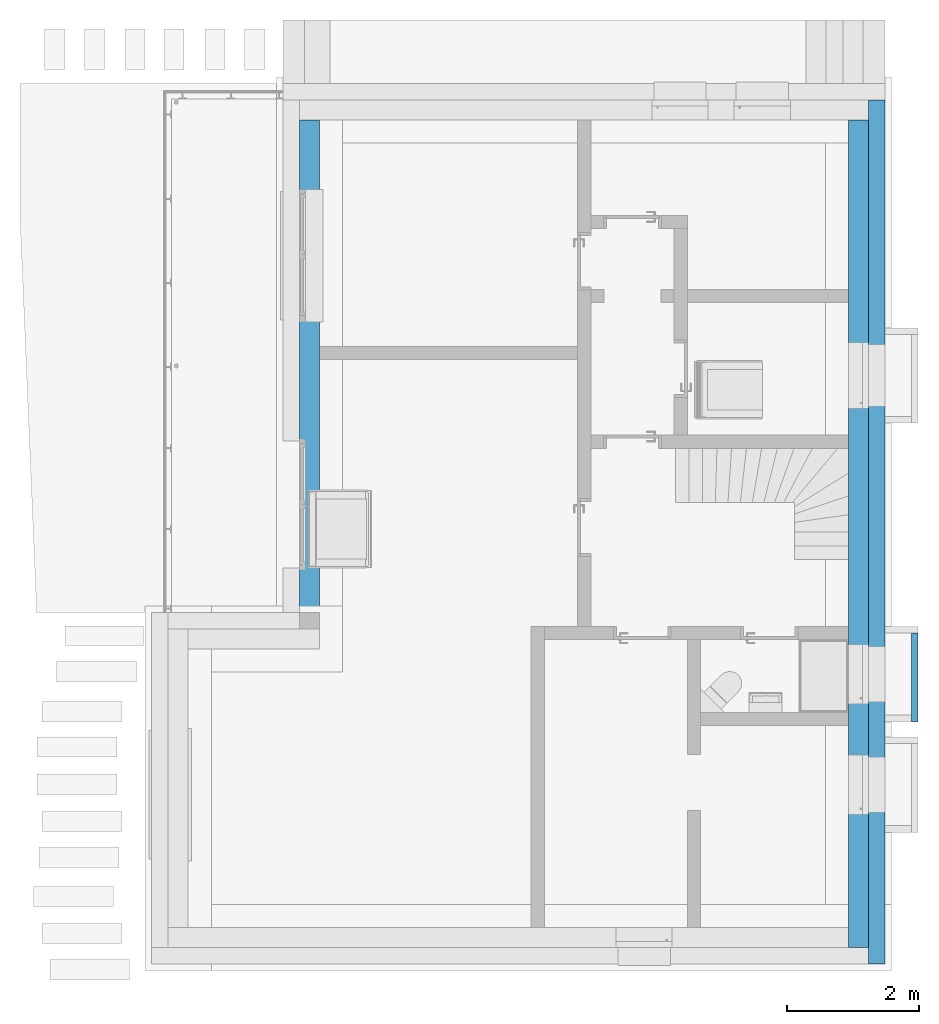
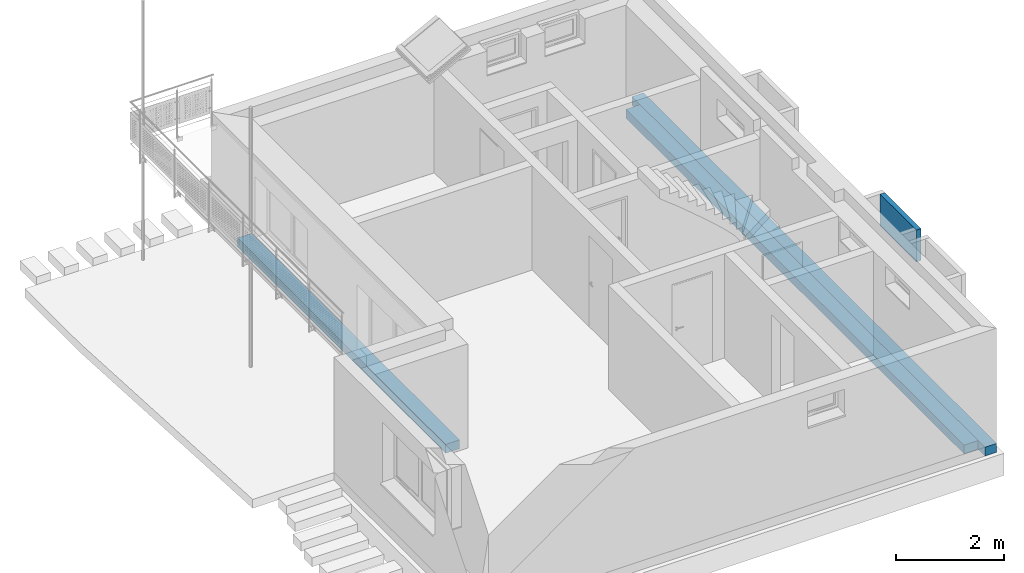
# One storey, part 4 of 22: 4 walls.
"""IFC2X3 building model written with IfcOpenShell, lengths in metres."""

from ifc_helpers import new_model, entity, si_unit, converted_unit, derived_unit, direction, frame, frame_2d, origin, place, context, subcontext, project, spatial, rectangle, extrude, material, layer, layer_set, layer_usage, type_object, element, save


model = new_model("IFC2X3")

# Units and contexts
model_context = context("Model", 3, precision=1e-05, world=origin(), true_north=direction((6.123233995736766e-17, 1.0)))
body_context = subcontext(model_context, "Body", "Model", "MODEL_VIEW")
ifc_project = project(units=[si_unit("LENGTHUNIT", "METRE"), si_unit("AREAUNIT", "SQUARE_METRE"), si_unit("VOLUMEUNIT", "CUBIC_METRE"), si_unit("POWERUNIT", "WATT"), derived_unit("USERDEFINED", [(si_unit("MASSUNIT", "GRAM", prefix="KILO"), 1), (si_unit("TIMEUNIT", "SECOND"), -3)]), derived_unit("THERMALRESISTANCEUNIT", [(si_unit("MASSUNIT", "GRAM", prefix="KILO"), -1), (si_unit("TIMEUNIT", "SECOND"), 3), (si_unit("THERMODYNAMICTEMPERATUREUNIT", "KELVIN"), 1)]), derived_unit("USERDEFINED", [(si_unit("MASSUNIT", "GRAM", prefix="KILO"), 1), (si_unit("TIMEUNIT", "SECOND"), -2), (si_unit("THERMODYNAMICTEMPERATUREUNIT", "KELVIN"), -1)]), derived_unit("THERMALTRANSMITTANCEUNIT", [(si_unit("MASSUNIT", "GRAM", prefix="KILO"), 1), (si_unit("TIMEUNIT", "SECOND"), -3), (si_unit("THERMODYNAMICTEMPERATUREUNIT", "KELVIN"), -1)]), converted_unit("PLANEANGLEUNIT", "DEGREE", entity("IfcPlaneAngleMeasure", 0.017453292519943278), si_unit("PLANEANGLEUNIT", "RADIAN"), dimensions=[0, 0, 0, 0, 0, 0, 0]), derived_unit("MOMENTOFINERTIAUNIT", [(si_unit("LENGTHUNIT", "METRE"), 4)])], contexts=[model_context])

# Site, building, storey
site_placement = place(None, origin())
site = spatial("IfcSite", under=ifc_project, at=site_placement, Name="Default", CompositionType="ELEMENT")
building_placement = place(site_placement, origin())
building = spatial("IfcBuilding", under=site, at=building_placement, CompositionType="ELEMENT")
storey_placement = place(building_placement, origin())
storey = spatial("IfcBuildingStorey", under=building, at=storey_placement, Name="Untergeschoss", CompositionType="ELEMENT", Elevation=0.0)

# Walls
ifc_material_1 = material(Name="Dämmung - weich")
ifc_layer_1 = layer(ifc_material_1, 0.24999999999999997)
ifc_layer_set_1 = layer_set([ifc_layer_1], Name="Basiswand:WD weich 250")
ifc_layer_usage_1 = layer_usage(ifc_layer_set_1, "AXIS2", "POSITIVE", -0.12499999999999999)
wall_type_1 = type_object("IfcWallType", Name="Basiswand:WD weich 250", PredefinedType="STANDARD", material=ifc_layer_set_1)
wall_1_placement = place(storey_placement, frame((38.501720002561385, 28.342272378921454, -0.2), z_axis=(0.0, 0.0, 1.0), x_axis=(0.0, -1.0, 0.0)))
element("IfcWallStandardCase", 1, at=wall_1_placement, inside=storey, type_object=wall_type_1, material=ifc_layer_usage_1, Name="Basiswand:WD weich 250", ObjectType="Basiswand:WD weich 250", context=body_context, shape_type="SweptSolid", body=[
    extrude(rectangle(XDim=13.05, YDim=0.2500000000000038, at=frame_2d((6.525, -2.0816681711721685e-16), x_axis=(-1.0, 0.0))), origin(), (0.0, 0.0, 1.0), 0.2),
])
ifc_material_2 = material(Name="Ortbeton - bewehrt Verputzt")
ifc_layer_2 = layer(ifc_material_2, 0.29999999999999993)
ifc_layer_set_2 = layer_set([ifc_layer_2], Name="Basiswand:STB 300")
ifc_layer_usage_2 = layer_usage(ifc_layer_set_2, "AXIS2", "NEGATIVE", 0.14999999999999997)
wall_type_2 = type_object("IfcWallType", Name="Basiswand:STB 300", PredefinedType="STANDARD", material=ifc_layer_set_2)
wall_2_placement = place(storey_placement, frame((38.226720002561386, 28.042272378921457, -0.2), z_axis=(0.0, 0.0, 1.0), x_axis=(0.0, -1.0, 0.0)))
element("IfcWallStandardCase", 2, at=wall_2_placement, inside=storey, type_object=wall_type_2, material=ifc_layer_usage_2, Name="Basiswand:STB 300", ObjectType="Basiswand:STB 300", context=body_context, shape_type="SweptSolid", body=[
    extrude(rectangle(XDim=12.500000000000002, YDim=0.3000000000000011, at=frame_2d((6.250000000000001, 2.636779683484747e-16), x_axis=(-1.0, 0.0))), origin(), (0.0, 0.0, 1.0), 0.2),
])
ifc_layer_usage_3 = layer_usage(ifc_layer_set_2, "AXIS2", "NEGATIVE", 0.14999999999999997)
wall_3_placement = place(storey_placement, frame((29.93672000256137, 20.35227237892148, -0.2), z_axis=(0.0, 0.0, 1.0), x_axis=(0.0, 1.0, 0.0)))
element("IfcWallStandardCase", 3, at=wall_3_placement, inside=storey, type_object=wall_type_2, material=ifc_layer_usage_3, Name="Basiswand:STB 300", ObjectType="Basiswand:STB 300", context=body_context, shape_type="SweptSolid", body=[
    extrude(rectangle(XDim=7.690000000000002, YDim=0.3000000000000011, at=frame_2d((3.845000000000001, 6.938893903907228e-17), x_axis=(-1.0, 0.0))), origin(), (0.0, 0.0, 1.0), 0.2),
])
ifc_layer_3 = layer(ifc_material_2, 0.1)
ifc_layer_set_3 = layer_set([ifc_layer_3], Name="Basiswand:STB 100")
ifc_layer_usage_4 = layer_usage(ifc_layer_set_3, "AXIS2", "POSITIVE", -0.05)
wall_type_3 = type_object("IfcWallType", Name="Basiswand:STB 100", PredefinedType="STANDARD", material=ifc_layer_set_3)
wall_4_placement = place(storey_placement, frame((39.07672000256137, 20.292272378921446, 1.734960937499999), z_axis=(0.0, 0.0, 1.0), x_axis=(0.0, -1.0, 0.0)))
element("IfcWallStandardCase", 4, at=wall_4_placement, inside=storey, type_object=wall_type_3, material=ifc_layer_usage_4, Name="Basiswand:STB 100", ObjectType="Basiswand:STB 100", context=body_context, shape_type="SweptSolid", body=[
    extrude(rectangle(XDim=1.3400000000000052, YDim=0.0999999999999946, at=frame_2d((0.6700000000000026, 0.0), x_axis=(-1.0, 0.0))), origin(), (0.0, 0.0, 1.0), 0.7158259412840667),
])

save(model, "model.ifc")
